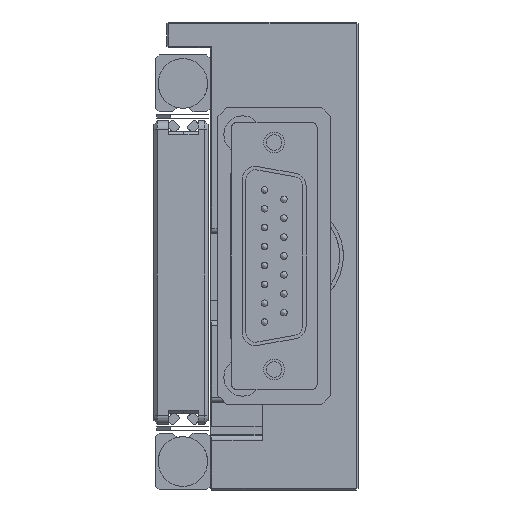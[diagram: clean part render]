
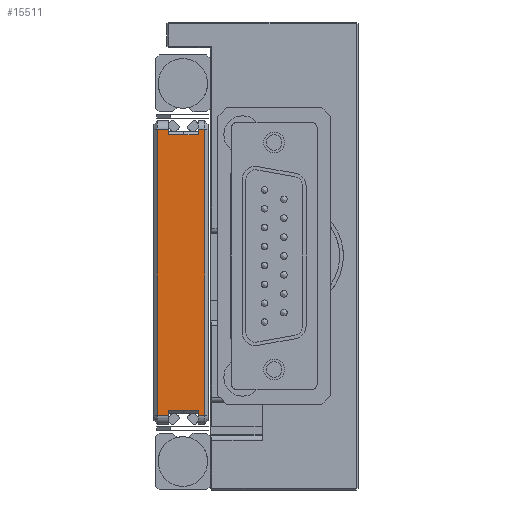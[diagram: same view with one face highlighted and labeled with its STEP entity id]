
A CAD part, left-side view. The second image highlights one B-rep face of the part: STEP entity #15511.
In plain terms, the highlighted planar face has unit normal (-1, 0, 0).
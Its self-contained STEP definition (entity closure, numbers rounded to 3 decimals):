
#353 = EDGE_CURVE ( 'NONE', #5065, #15529, #25940, .T. ) ;
#713 = LINE ( 'NONE', #9321, #8538 ) ;
#821 = CARTESIAN_POINT ( 'NONE',  ( -102.499, 29.42, 18.538 ) ) ;
#827 = VERTEX_POINT ( 'NONE', #6466 ) ;
#856 = DIRECTION ( 'NONE',  ( 0., 1., 0. ) ) ;
#883 = CARTESIAN_POINT ( 'NONE',  ( -102.499, 23.42, -23.118 ) ) ;
#1469 = VECTOR ( 'NONE', #2469, 1000. ) ;
#1955 = LINE ( 'NONE', #10554, #21284 ) ;
#2046 = VECTOR ( 'NONE', #21107, 1000. ) ;
#2469 = DIRECTION ( 'NONE',  ( 0., 0., -1. ) ) ;
#3733 = LINE ( 'NONE', #12282, #2046 ) ;
#3742 = DIRECTION ( 'NONE',  ( 0., 0., 1. ) ) ;
#3885 = DIRECTION ( 'NONE',  ( -1., 0., 0. ) ) ;
#4029 = CARTESIAN_POINT ( 'NONE',  ( -102.499, 29.42, -23.372 ) ) ;
#4067 = VECTOR ( 'NONE', #3742, 1000. ) ;
#4402 = VECTOR ( 'NONE', #7835, 1000. ) ;
#4551 = EDGE_CURVE ( 'NONE', #26587, #7735, #713, .T. ) ;
#5065 = VERTEX_POINT ( 'NONE', #821 ) ;
#5199 = VERTEX_POINT ( 'NONE', #25160 ) ;
#5248 = CARTESIAN_POINT ( 'NONE',  ( -102.499, 27.8, -23.118 ) ) ;
#5366 = CARTESIAN_POINT ( 'NONE',  ( -102.499, 27.8, -22.61 ) ) ;
#5652 = DIRECTION ( 'NONE',  ( 0., 1., 0. ) ) ;
#5653 = ORIENTED_EDGE ( 'NONE', *, *, #22488, .T. ) ;
#6006 = FACE_OUTER_BOUND ( 'NONE', #16922, .T. ) ;
#6466 = CARTESIAN_POINT ( 'NONE',  ( -102.499, 23.42, -23.372 ) ) ;
#6482 = DIRECTION ( 'NONE',  ( 0., 1., 0. ) ) ;
#6972 = EDGE_CURVE ( 'NONE', #13640, #15203, #17263, .T. ) ;
#7538 = ORIENTED_EDGE ( 'NONE', *, *, #24499, .F. ) ;
#7718 = ORIENTED_EDGE ( 'NONE', *, *, #353, .T. ) ;
#7735 = VERTEX_POINT ( 'NONE', #25195 ) ;
#7835 = DIRECTION ( 'NONE',  ( 0., 0., 1. ) ) ;
#8538 = VECTOR ( 'NONE', #18021, 1000. ) ;
#8602 = CARTESIAN_POINT ( 'NONE',  ( -102.499, 27.8, 17.776 ) ) ;
#8767 = LINE ( 'NONE', #17443, #15400 ) ;
#9321 = CARTESIAN_POINT ( 'NONE',  ( -102.499, 23.42, -22.61 ) ) ;
#9491 = DIRECTION ( 'NONE',  ( 0., 0., -1. ) ) ;
#10554 = CARTESIAN_POINT ( 'NONE',  ( -102.499, 23.42, 18.538 ) ) ;
#10719 = CARTESIAN_POINT ( 'NONE',  ( -102.499, 27.8, -23.372 ) ) ;
#10902 = ORIENTED_EDGE ( 'NONE', *, *, #12502, .F. ) ;
#10999 = ORIENTED_EDGE ( 'NONE', *, *, #23639, .T. ) ;
#11548 = LINE ( 'NONE', #20342, #20453 ) ;
#11919 = EDGE_CURVE ( 'NONE', #23931, #27634, #18677, .T. ) ;
#12282 = CARTESIAN_POINT ( 'NONE',  ( -102.499, 21.99, 18.538 ) ) ;
#12451 = DIRECTION ( 'NONE',  ( 0., 0., 1. ) ) ;
#12502 = EDGE_CURVE ( 'NONE', #21881, #15203, #1955, .T. ) ;
#12725 = ORIENTED_EDGE ( 'NONE', *, *, #4551, .T. ) ;
#13230 = ORIENTED_EDGE ( 'NONE', *, *, #11919, .T. ) ;
#13293 = EDGE_CURVE ( 'NONE', #5199, #13640, #14439, .T. ) ;
#13526 = ORIENTED_EDGE ( 'NONE', *, *, #25134, .T. ) ;
#13640 = VERTEX_POINT ( 'NONE', #23411 ) ;
#13820 = DIRECTION ( 'NONE',  ( 0., 0., 1. ) ) ;
#13888 = VECTOR ( 'NONE', #13820, 1000. ) ;
#14439 = LINE ( 'NONE', #23208, #4067 ) ;
#14523 = CARTESIAN_POINT ( 'NONE',  ( -102.499, 23.42, 18.538 ) ) ;
#14587 = PLANE ( 'NONE',  #22956 ) ;
#14977 = CARTESIAN_POINT ( 'NONE',  ( -102.499, 27.8, 18.538 ) ) ;
#15203 = VERTEX_POINT ( 'NONE', #14523 ) ;
#15400 = VECTOR ( 'NONE', #26023, 1000. ) ;
#15511 = ADVANCED_FACE ( 'NONE', ( #6006 ), #14587, .T. ) ;
#15529 = VERTEX_POINT ( 'NONE', #4029 ) ;
#16396 = LINE ( 'NONE', #25060, #26715 ) ;
#16922 = EDGE_LOOP ( 'NONE', ( #12725, #17365, #17394, #21269, #21159, #10902, #10999, #13230, #13526, #7718, #7538, #5653 ) ) ;
#17263 = LINE ( 'NONE', #25862, #18679 ) ;
#17365 = ORIENTED_EDGE ( 'NONE', *, *, #22458, .T. ) ;
#17394 = ORIENTED_EDGE ( 'NONE', *, *, #27824, .F. ) ;
#17443 = CARTESIAN_POINT ( 'NONE',  ( -102.499, 21.99, -23.372 ) ) ;
#18021 = DIRECTION ( 'NONE',  ( 0., -1., 0. ) ) ;
#18677 = LINE ( 'NONE', #27179, #4402 ) ;
#18679 = VECTOR ( 'NONE', #6482, 1000. ) ;
#19132 = CARTESIAN_POINT ( 'NONE',  ( -102.499, 23.42, 17.776 ) ) ;
#19297 = DIRECTION ( 'NONE',  ( 0., 0., 1. ) ) ;
#20320 = VERTEX_POINT ( 'NONE', #10719 ) ;
#20342 = CARTESIAN_POINT ( 'NONE',  ( -102.499, 27.8, 17.776 ) ) ;
#20368 = LINE ( 'NONE', #883, #22648 ) ;
#20453 = VECTOR ( 'NONE', #856, 1000. ) ;
#21107 = DIRECTION ( 'NONE',  ( 0., 1., 0. ) ) ;
#21159 = ORIENTED_EDGE ( 'NONE', *, *, #6972, .T. ) ;
#21269 = ORIENTED_EDGE ( 'NONE', *, *, #13293, .T. ) ;
#21284 = VECTOR ( 'NONE', #19297, 1000. ) ;
#21881 = VERTEX_POINT ( 'NONE', #19132 ) ;
#21976 = CARTESIAN_POINT ( 'NONE',  ( -102.499, 29.42, 18.538 ) ) ;
#22458 = EDGE_CURVE ( 'NONE', #7735, #827, #20368, .T. ) ;
#22488 = EDGE_CURVE ( 'NONE', #20320, #26587, #24676, .T. ) ;
#22648 = VECTOR ( 'NONE', #9491, 1000. ) ;
#22956 = AXIS2_PLACEMENT_3D ( 'NONE', #23353, #3885, #12451 ) ;
#23208 = CARTESIAN_POINT ( 'NONE',  ( -102.499, 22.498, 18.538 ) ) ;
#23353 = CARTESIAN_POINT ( 'NONE',  ( -102.499, 21.99, 18.538 ) ) ;
#23411 = CARTESIAN_POINT ( 'NONE',  ( -102.499, 22.498, 18.538 ) ) ;
#23639 = EDGE_CURVE ( 'NONE', #21881, #23931, #11548, .T. ) ;
#23931 = VERTEX_POINT ( 'NONE', #8602 ) ;
#24499 = EDGE_CURVE ( 'NONE', #20320, #15529, #8767, .T. ) ;
#24676 = LINE ( 'NONE', #5248, #13888 ) ;
#25060 = CARTESIAN_POINT ( 'NONE',  ( -102.499, 21.99, -23.372 ) ) ;
#25134 = EDGE_CURVE ( 'NONE', #27634, #5065, #3733, .T. ) ;
#25160 = CARTESIAN_POINT ( 'NONE',  ( -102.499, 22.498, -23.372 ) ) ;
#25195 = CARTESIAN_POINT ( 'NONE',  ( -102.499, 23.42, -22.61 ) ) ;
#25862 = CARTESIAN_POINT ( 'NONE',  ( -102.499, 21.99, 18.538 ) ) ;
#25940 = LINE ( 'NONE', #21976, #1469 ) ;
#26023 = DIRECTION ( 'NONE',  ( 0., 1., 0. ) ) ;
#26587 = VERTEX_POINT ( 'NONE', #5366 ) ;
#26715 = VECTOR ( 'NONE', #5652, 1000. ) ;
#27179 = CARTESIAN_POINT ( 'NONE',  ( -102.499, 27.8, 19.808 ) ) ;
#27634 = VERTEX_POINT ( 'NONE', #14977 ) ;
#27824 = EDGE_CURVE ( 'NONE', #5199, #827, #16396, .T. ) ;
